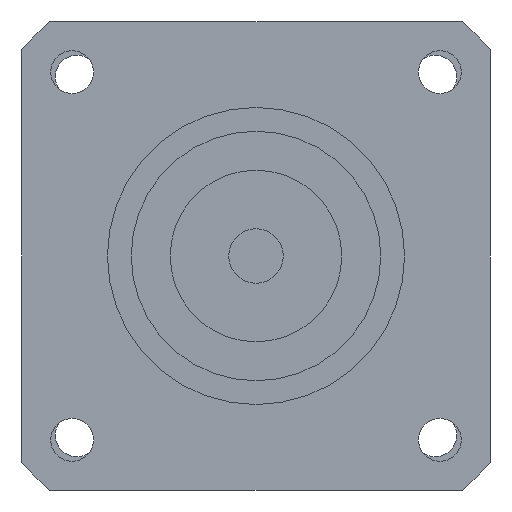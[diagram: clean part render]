
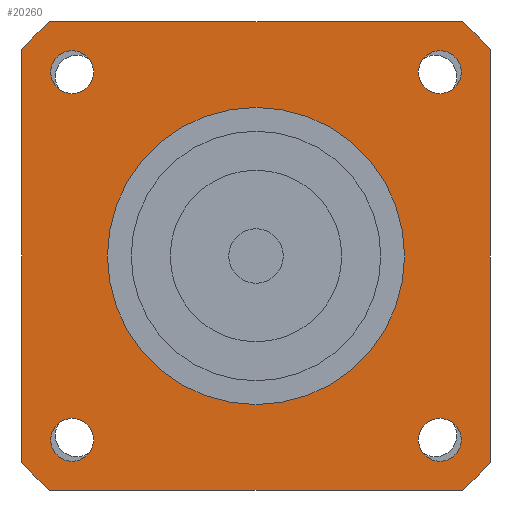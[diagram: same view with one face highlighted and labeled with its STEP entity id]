
A CAD part, left-side view. The second image highlights one B-rep face of the part: STEP entity #20260.
In plain terms, the highlighted planar face has unit normal (-1, 0, 0) as drawn and (0, 0, -1) by its records, which use the part's own axes.
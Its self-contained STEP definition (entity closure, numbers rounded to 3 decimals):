
#11110=CARTESIAN_POINT('',(-30.,-26.458,-58.));
#11120=VERTEX_POINT('',#11110);
#11280=CARTESIAN_POINT('',(-26.458,-30.,-58.));
#11290=VERTEX_POINT('',#11280);
#11320=CARTESIAN_POINT('',(0.,0.,
-58.));
#11330=DIRECTION('',(0.,0.,1.));
#11340=DIRECTION('',(0.,-1.,0.));
#11350=AXIS2_PLACEMENT_3D('',#11320,#11330,#11340);
#11360=CIRCLE('',#11350,40.);
#11370=EDGE_CURVE('',#11120,#11290,#11360,.T.);
#12870=CARTESIAN_POINT('',(-30.,26.458,-58.));
#12880=VERTEX_POINT('',#12870);
#12980=CARTESIAN_POINT('',(-30.,30.,-58.));
#12990=DIRECTION('',(0.,-1.,0.));
#13000=VECTOR('',#12990,1000.);
#13010=LINE('',#12980,#13000);
#13020=EDGE_CURVE('',#12880,#11120,#13010,.T.);
#17850=CARTESIAN_POINT('',(-26.458,30.,-58.));
#17860=VERTEX_POINT('',#17850);
#17910=CARTESIAN_POINT('',(0.,0.,
-58.));
#17920=DIRECTION('',(0.,0.,1.));
#17930=DIRECTION('',(0.,-1.,0.));
#17940=AXIS2_PLACEMENT_3D('',#17910,#17920,#17930);
#17950=CIRCLE('',#17940,40.);
#17960=EDGE_CURVE('',#17860,#12880,#17950,.T.);
#18100=CARTESIAN_POINT('',(26.458,30.,-58.));
#18110=VERTEX_POINT('',#18100);
#18160=CARTESIAN_POINT('',(30.,30.,-58.));
#18170=DIRECTION('',(-1.,0.,0.));
#18180=VECTOR('',#18170,1000.);
#18190=LINE('',#18160,#18180);
#18200=EDGE_CURVE('',#18110,#17860,#18190,.T.);
#18310=CARTESIAN_POINT('',(0.,0.,
-58.));
#18320=DIRECTION('',(0.,0.,1.));
#18330=DIRECTION('',(0.,-1.,0.));
#18340=AXIS2_PLACEMENT_3D('',#18310,#18320,#18330);
#18350=CIRCLE('',#18340,40.);
#18360=CARTESIAN_POINT('',(30.,26.458,-58.));
#18370=VERTEX_POINT('',#18360);
#18380=EDGE_CURVE('',#18370,#18110,#18350,.T.);
#18590=CARTESIAN_POINT('',(30.,-26.458,-58.));
#18600=VERTEX_POINT('',#18590);
#18650=CARTESIAN_POINT('',(30.,-30.,-58.));
#18660=DIRECTION('',(0.,1.,0.));
#18670=VECTOR('',#18660,1000.);
#18680=LINE('',#18650,#18670);
#18690=EDGE_CURVE('',#18600,#18370,#18680,.T.);
#18830=CARTESIAN_POINT('',(26.458,-30.,-58.));
#18840=VERTEX_POINT('',#18830);
#18890=CARTESIAN_POINT('',(0.,0.,
-58.));
#18900=DIRECTION('',(0.,0.,1.));
#18910=DIRECTION('',(0.,-1.,0.));
#18920=AXIS2_PLACEMENT_3D('',#18890,#18900,#18910);
#18930=CIRCLE('',#18920,40.);
#18940=EDGE_CURVE('',#18840,#18600,#18930,.T.);
#19070=CARTESIAN_POINT('',(-30.,-30.,-58.));
#19080=DIRECTION('',(1.,0.,0.));
#19090=VECTOR('',#19080,1000.);
#19100=LINE('',#19070,#19090);
#19110=EDGE_CURVE('',#11290,#18840,#19100,.T.);
#19160=CARTESIAN_POINT('',(-30.,30.,-58.));
#19170=DIRECTION('',(0.,0.,1.));
#19180=DIRECTION('',(-1.,0.,0.));
#19190=AXIS2_PLACEMENT_3D('',#19160,#19170,#19180);
#19200=PLANE('',#19190);
#19210=CARTESIAN_POINT('',(23.571,-23.571,-58.));
#19220=DIRECTION('',(0.,0.,-1.));
#19230=DIRECTION('',(1.,0.,0.));
#19240=AXIS2_PLACEMENT_3D('',#19210,#19220,#19230);
#19250=CIRCLE('',#19240,2.75);
#19260=CARTESIAN_POINT('',(26.321,-23.571,-58.));
#19270=VERTEX_POINT('',#19260);
#19280=CARTESIAN_POINT('',(23.571,-26.321,-58.));
#19290=VERTEX_POINT('',#19280);
#19300=EDGE_CURVE('',#19270,#19290,#19250,.T.);
#19310=ORIENTED_EDGE('',*,*,#19300,.F.);
#19320=CARTESIAN_POINT('',(23.571,-20.821,-58.));
#19330=VERTEX_POINT('',#19320);
#19340=EDGE_CURVE('',#19290,#19330,#19250,.T.);
#19350=ORIENTED_EDGE('',*,*,#19340,.F.);
#19360=EDGE_CURVE('',#19330,#19270,#19250,.T.);
#19370=ORIENTED_EDGE('',*,*,#19360,.F.);
#19380=EDGE_LOOP('',(#19370,#19350,#19310));
#19390=FACE_BOUND('',#19380,.T.);
#19400=CARTESIAN_POINT('',(23.571,23.571,-58.));
#19410=DIRECTION('',(0.,0.,-1.));
#19420=DIRECTION('',(0.,1.,0.));
#19430=AXIS2_PLACEMENT_3D('',#19400,#19410,#19420);
#19440=CIRCLE('',#19430,2.75);
#19450=CARTESIAN_POINT('',(23.571,26.321,-58.));
#19460=VERTEX_POINT('',#19450);
#19470=CARTESIAN_POINT('',(26.321,23.571,-58.));
#19480=VERTEX_POINT('',#19470);
#19490=EDGE_CURVE('',#19460,#19480,#19440,.T.);
#19500=ORIENTED_EDGE('',*,*,#19490,.F.);
#19510=CARTESIAN_POINT('',(20.821,23.571,-58.));
#19520=VERTEX_POINT('',#19510);
#19530=EDGE_CURVE('',#19480,#19520,#19440,.T.);
#19540=ORIENTED_EDGE('',*,*,#19530,.F.);
#19550=EDGE_CURVE('',#19520,#19460,#19440,.T.);
#19560=ORIENTED_EDGE('',*,*,#19550,.F.);
#19570=EDGE_LOOP('',(#19560,#19540,#19500));
#19580=FACE_BOUND('',#19570,.T.);
#19590=CARTESIAN_POINT('',(-23.571,23.571,-58.));
#19600=DIRECTION('',(0.,0.,-1.));
#19610=DIRECTION('',(-1.,0.,0.));
#19620=AXIS2_PLACEMENT_3D('',#19590,#19600,#19610);
#19630=CIRCLE('',#19620,2.75);
#19640=CARTESIAN_POINT('',(-26.321,23.571,-58.));
#19650=VERTEX_POINT('',#19640);
#19660=CARTESIAN_POINT('',(-23.571,26.321,-58.));
#19670=VERTEX_POINT('',#19660);
#19680=EDGE_CURVE('',#19650,#19670,#19630,.T.);
#19690=ORIENTED_EDGE('',*,*,#19680,.F.);
#19700=CARTESIAN_POINT('',(-23.571,20.821,-58.));
#19710=VERTEX_POINT('',#19700);
#19720=EDGE_CURVE('',#19670,#19710,#19630,.T.);
#19730=ORIENTED_EDGE('',*,*,#19720,.F.);
#19740=EDGE_CURVE('',#19710,#19650,#19630,.T.);
#19750=ORIENTED_EDGE('',*,*,#19740,.F.);
#19760=EDGE_LOOP('',(#19750,#19730,#19690));
#19770=FACE_BOUND('',#19760,.T.);
#19780=CARTESIAN_POINT('',(-23.571,-23.571,-58.));
#19790=DIRECTION('',(0.,0.,-1.));
#19800=DIRECTION('',(0.,-1.,0.));
#19810=AXIS2_PLACEMENT_3D('',#19780,#19790,#19800);
#19820=CIRCLE('',#19810,2.75);
#19830=CARTESIAN_POINT('',(-23.571,-26.321,-58.));
#19840=VERTEX_POINT('',#19830);
#19850=CARTESIAN_POINT('',(-26.321,-23.571,-58.));
#19860=VERTEX_POINT('',#19850);
#19870=EDGE_CURVE('',#19840,#19860,#19820,.T.);
#19880=ORIENTED_EDGE('',*,*,#19870,.F.);
#19890=CARTESIAN_POINT('',(-20.821,-23.571,-58.));
#19900=VERTEX_POINT('',#19890);
#19910=EDGE_CURVE('',#19860,#19900,#19820,.T.);
#19920=ORIENTED_EDGE('',*,*,#19910,.F.);
#19930=EDGE_CURVE('',#19900,#19840,#19820,.T.);
#19940=ORIENTED_EDGE('',*,*,#19930,.F.);
#19950=EDGE_LOOP('',(#19940,#19920,#19880));
#19960=FACE_BOUND('',#19950,.T.);
#19970=ORIENTED_EDGE('',*,*,#11370,.F.);
#19980=ORIENTED_EDGE('',*,*,#19110,.F.);
#19990=ORIENTED_EDGE('',*,*,#18940,.F.);
#20000=ORIENTED_EDGE('',*,*,#18690,.F.);
#20010=ORIENTED_EDGE('',*,*,#18380,.F.);
#20020=ORIENTED_EDGE('',*,*,#18200,.F.);
#20030=ORIENTED_EDGE('',*,*,#17960,.F.);
#20040=ORIENTED_EDGE('',*,*,#13020,.F.);
#20050=EDGE_LOOP('',(#20040,#20030,#20020,#20010,#20000,#19990,#19980,
#19970));
#20060=FACE_OUTER_BOUND('',#20050,.T.);
#20070=CARTESIAN_POINT('',(0.,0.,
-58.));
#20080=DIRECTION('',(0.,0.,1.));
#20090=DIRECTION('',(0.,-1.,0.));
#20100=AXIS2_PLACEMENT_3D('',#20070,#20080,#20090);
#20110=CIRCLE('',#20100,19.05);
#20120=CARTESIAN_POINT('',(19.05,0.,-58.));
#20130=VERTEX_POINT('',#20120);
#20140=CARTESIAN_POINT('',(-19.05,0.,-58.));
#20150=VERTEX_POINT('',#20140);
#20160=EDGE_CURVE('',#20130,#20150,#20110,.T.);
#20170=ORIENTED_EDGE('',*,*,#20160,.T.);
#20180=CARTESIAN_POINT('',(0.,-19.05,-58.));
#20190=VERTEX_POINT('',#20180);
#20200=EDGE_CURVE('',#20190,#20130,#20110,.T.);
#20210=ORIENTED_EDGE('',*,*,#20200,.T.);
#20220=EDGE_CURVE('',#20150,#20190,#20110,.T.);
#20230=ORIENTED_EDGE('',*,*,#20220,.T.);
#20240=EDGE_LOOP('',(#20230,#20210,#20170));
#20250=FACE_BOUND('',#20240,.T.);
#20260=ADVANCED_FACE('',(#19390,#19580,#19770,#19960,#20060,#20250),
#19200,.F.);
